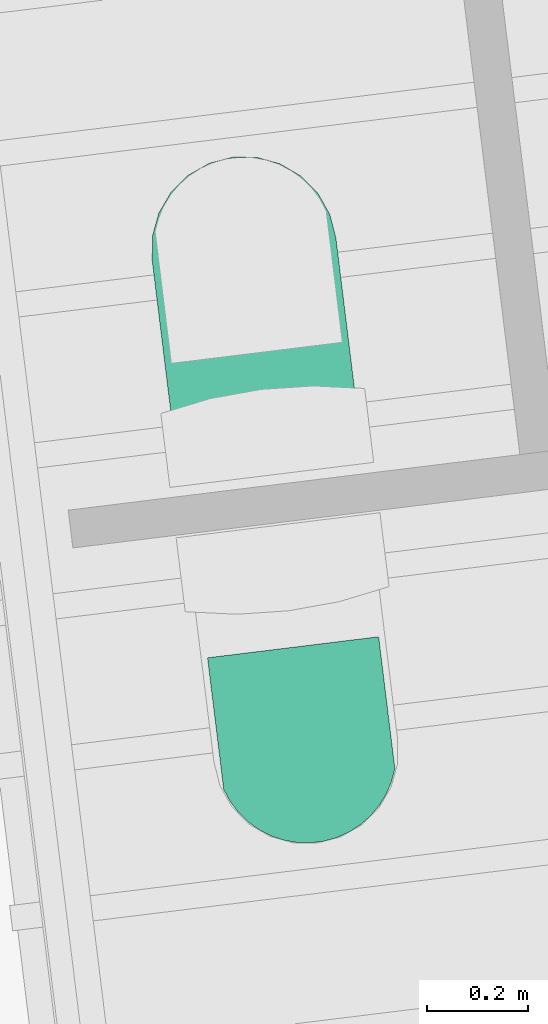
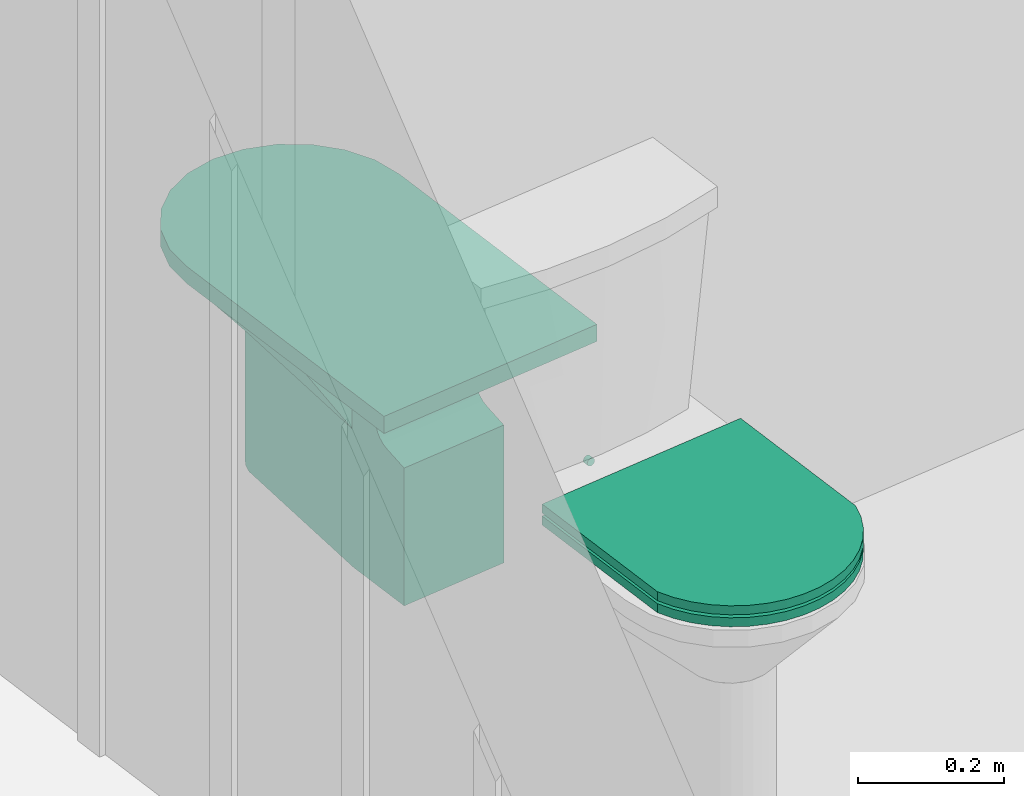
# One storey, part 51 of 75: 2 flow terminals.
"""IFC2X3 building model written with IfcOpenShell, lengths in metres."""

from ifc_helpers import new_model, entity, si_unit, converted_unit, derived_unit, direction, frame, frame_2d, origin, place, context, subcontext, project, spatial, polyline, circle_curve, parameter, trimmed, segment, composite_curve, outline, extrude, faceted_brep, source, transform, mapped, material, material_list, type_object, type_shapes, element, save


model = new_model("IFC2X3")

# Units and contexts
model_context = context("Model", 3, precision=1e-05, world=origin(), true_north=direction((6.123031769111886e-17, 1.0)))
body_context = subcontext(model_context, "Body", "Model", "MODEL_VIEW")
ifc_project = project(units=[si_unit("LENGTHUNIT", "METRE"), si_unit("AREAUNIT", "SQUARE_METRE"), si_unit("VOLUMEUNIT", "CUBIC_METRE"), converted_unit("PLANEANGLEUNIT", "DEGREE", entity("IfcRatioMeasure", 0.017453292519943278), si_unit("PLANEANGLEUNIT", "RADIAN"), dimensions=[0, 0, 0, 0, 0, 0, 0]), si_unit("MASSUNIT", "GRAM", prefix="KILO"), derived_unit("MASSDENSITYUNIT", [(si_unit("MASSUNIT", "GRAM", prefix="KILO"), 1), (si_unit("LENGTHUNIT", "METRE"), -3)]), derived_unit("IONCONCENTRATIONUNIT", [(si_unit("MASSUNIT", "GRAM", prefix="KILO"), 1), (si_unit("LENGTHUNIT", "METRE"), -3)]), derived_unit("MOMENTOFINERTIAUNIT", [(si_unit("LENGTHUNIT", "METRE"), 4)]), si_unit("TIMEUNIT", "SECOND"), si_unit("FREQUENCYUNIT", "HERTZ"), si_unit("THERMODYNAMICTEMPERATUREUNIT", "DEGREE_CELSIUS"), derived_unit("THERMALTRANSMITTANCEUNIT", [(si_unit("MASSUNIT", "GRAM", prefix="KILO"), 1), (si_unit("THERMODYNAMICTEMPERATUREUNIT", "KELVIN"), -1), (si_unit("TIMEUNIT", "SECOND"), -3)]), derived_unit("THERMALCONDUCTANCEUNIT", [(si_unit("MASSUNIT", "GRAM", prefix="KILO"), 1), (si_unit("THERMODYNAMICTEMPERATUREUNIT", "KELVIN"), -1), (si_unit("TIMEUNIT", "SECOND"), -3), (si_unit("LENGTHUNIT", "METRE"), 1)]), derived_unit("VOLUMETRICFLOWRATEUNIT", [(si_unit("LENGTHUNIT", "METRE"), 3), (si_unit("TIMEUNIT", "SECOND"), -1)]), derived_unit("MASSFLOWRATEUNIT", [(si_unit("MASSUNIT", "GRAM", prefix="KILO"), 1), (si_unit("TIMEUNIT", "SECOND"), -1)]), derived_unit("ROTATIONALFREQUENCYUNIT", [(si_unit("TIMEUNIT", "SECOND"), -1)]), si_unit("ELECTRICCURRENTUNIT", "AMPERE"), si_unit("ELECTRICVOLTAGEUNIT", "VOLT"), si_unit("POWERUNIT", "WATT"), si_unit("FORCEUNIT", "NEWTON", prefix="KILO"), si_unit("ILLUMINANCEUNIT", "LUX"), si_unit("LUMINOUSFLUXUNIT", "LUMEN"), si_unit("LUMINOUSINTENSITYUNIT", "CANDELA"), derived_unit("USERDEFINED", [(si_unit("MASSUNIT", "GRAM", prefix="KILO"), -1), (si_unit("LENGTHUNIT", "METRE"), -2), (si_unit("TIMEUNIT", "SECOND"), 3), (si_unit("LUMINOUSFLUXUNIT", "LUMEN"), 1)]), derived_unit("USERDEFINED", [(si_unit("MASSUNIT", "GRAM", prefix="KILO"), 1), (si_unit("TIMEUNIT", "SECOND"), -3), (si_unit("LENGTHUNIT", "METRE"), 3), (si_unit("ELECTRICCURRENTUNIT", "AMPERE"), -2)]), derived_unit("SOUNDPOWERUNIT", [(si_unit("MASSUNIT", "GRAM", prefix="KILO"), 1), (si_unit("TIMEUNIT", "SECOND"), -3), (si_unit("LENGTHUNIT", "METRE"), 2)]), derived_unit("SOUNDPRESSUREUNIT", [(si_unit("MASSUNIT", "GRAM", prefix="KILO"), 1), (si_unit("LENGTHUNIT", "METRE"), -1), (si_unit("TIMEUNIT", "SECOND"), -2)]), derived_unit("LINEARVELOCITYUNIT", [(si_unit("LENGTHUNIT", "METRE"), 1), (si_unit("TIMEUNIT", "SECOND"), -1)]), si_unit("PRESSUREUNIT", "PASCAL"), derived_unit("USERDEFINED", [(si_unit("MASSUNIT", "GRAM", prefix="KILO"), 1), (si_unit("LENGTHUNIT", "METRE"), -2), (si_unit("TIMEUNIT", "SECOND"), -2)]), derived_unit("LINEARFORCEUNIT", [(si_unit("MASSUNIT", "GRAM", prefix="KILO"), 1), (si_unit("TIMEUNIT", "SECOND"), -2)]), derived_unit("PLANARFORCEUNIT", [(si_unit("MASSUNIT", "GRAM", prefix="KILO"), 1), (si_unit("LENGTHUNIT", "METRE"), -1), (si_unit("TIMEUNIT", "SECOND"), -2)]), derived_unit("SPECIFICHEATCAPACITYUNIT", [(si_unit("THERMODYNAMICTEMPERATUREUNIT", "KELVIN"), -1), (si_unit("LENGTHUNIT", "METRE"), 2), (si_unit("TIMEUNIT", "SECOND"), -2)]), derived_unit("HEATINGVALUEUNIT", [(si_unit("LENGTHUNIT", "METRE"), 2), (si_unit("TIMEUNIT", "SECOND"), -2)]), derived_unit("VAPORPERMEABILITYUNIT", [(si_unit("LENGTHUNIT", "METRE"), -1), (si_unit("TIMEUNIT", "SECOND"), 1)]), derived_unit("DYNAMICVISCOSITYUNIT", [(si_unit("MASSUNIT", "GRAM", prefix="KILO"), 1), (si_unit("TIMEUNIT", "SECOND"), -1), (si_unit("LENGTHUNIT", "METRE"), -1)]), derived_unit("THERMALEXPANSIONCOEFFICIENTUNIT", [(si_unit("THERMODYNAMICTEMPERATUREUNIT", "KELVIN"), -1)]), derived_unit("MODULUSOFELASTICITYUNIT", [(si_unit("MASSUNIT", "GRAM", prefix="KILO"), 1), (si_unit("LENGTHUNIT", "METRE"), -1), (si_unit("TIMEUNIT", "SECOND"), -2)]), derived_unit("ISOTHERMALMOISTURECAPACITYUNIT", [(si_unit("LENGTHUNIT", "METRE"), 3), (si_unit("MASSUNIT", "GRAM", prefix="KILO"), -1)]), derived_unit("MOISTUREDIFFUSIVITYUNIT", [(si_unit("TIMEUNIT", "SECOND"), -1), (si_unit("LENGTHUNIT", "METRE"), 2)])], contexts=[model_context])

# Site, building, storey
site_placement = place(None, origin())
site = spatial("IfcSite", under=ifc_project, at=site_placement, Name="Default", CompositionType="ELEMENT")
building_placement = place(site_placement, origin())
building = spatial("IfcBuilding", under=site, at=building_placement, Name="Projeto", CompositionType="ELEMENT")
storey_placement = place(building_placement, origin())
storey = spatial("IfcBuildingStorey", under=building, at=storey_placement, Name="Nível 1", CompositionType="ELEMENT", Elevation=0.0)

# Flow terminals
ifc_material_1 = material(Name="<Unnamed>")
ifc_material_2 = material(Name="Deca GE17 Branco Gelo Cerâmica")
ifc_material_list = material_list([ifc_material_1, ifc_material_2])
distribution_element_type_1 = type_object("IfcDistributionElementType", Name="Deca_Bacia Duna_P.707_Caixa Acoplada:Dual Flux 3 lpf / 6 lpf - Branco GE17", material=ifc_material_list)
shared_shape_1 = source(origin(), body_context, "Body", "Brep", [
    faceted_brep([(-0.013030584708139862, 0.005348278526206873, 0.25170370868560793), (-0.025089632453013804, 0.0053482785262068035, 0.2566987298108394), (-0.03544497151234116, 0.005348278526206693, 0.26464466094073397), (-0.04339090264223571, 0.00534827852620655, 0.27500000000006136), (-0.04838592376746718, 0.005348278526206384, 0.2870590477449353), (-0.05008963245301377, 0.005348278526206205, 0.30000000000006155), (-0.048385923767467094, 0.0053482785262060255, 0.31294095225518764), (-0.04339090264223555, 0.005348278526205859, 0.3250000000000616), (-0.03544497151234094, 0.005348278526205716, 0.3353553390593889), (-0.025089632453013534, 0.005348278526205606, 0.34330127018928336), (-0.013030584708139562, 0.005348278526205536, 0.3482962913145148), (-8.96324530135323e-05, 0.005348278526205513, 0.3500000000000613), (0.01285131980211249, 0.005348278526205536, 0.3482962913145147), (0.02491036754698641, 0.005348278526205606, 0.34330127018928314), (0.03526570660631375, 0.005348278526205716, 0.3353553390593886), (0.04321163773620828, 0.005348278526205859, 0.32500000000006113), (0.048206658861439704, 0.0053482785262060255, 0.31294095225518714), (0.049910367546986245, 0.005348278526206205, 0.30000000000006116), (0.048206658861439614, 0.005348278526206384, 0.2870590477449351), (0.04321163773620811, 0.00534827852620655, 0.2750000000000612), (0.03526570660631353, 0.005348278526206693, 0.26464466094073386), (0.024910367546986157, 0.0053482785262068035, 0.2566987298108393), (0.012851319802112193, 0.005348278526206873, 0.2517037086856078), (-8.963245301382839e-05, 0.005348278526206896, 0.2500000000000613), (-0.04339090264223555, 0.0, 0.32500000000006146), (-0.048385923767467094, 0.0, 0.31294095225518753), (-0.05008963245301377, 0.0, 0.3000000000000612), (-0.04838592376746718, 0.0, 0.2870590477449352), (-0.04339090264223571, 0.0, 0.27500000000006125), (-0.03544497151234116, 0.0, 0.2646446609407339), (-0.025089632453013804, 0.0, 0.25669872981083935), (-0.013030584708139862, 0.0, 0.2517037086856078), (-8.963245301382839e-05, 0.0, 0.25000000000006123), (0.012851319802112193, 0.0, 0.25170370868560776), (0.024910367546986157, 0.0, 0.25669872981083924), (0.03526570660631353, 0.0, 0.2646446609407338), (0.04321163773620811, 0.0, 0.27500000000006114), (0.048206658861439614, 0.0, 0.28705904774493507), (0.049910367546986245, 0.0, 0.30000000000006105), (0.048206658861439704, 0.0, 0.3129409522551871), (0.04321163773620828, 0.0, 0.3250000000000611), (0.03526570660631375, 0.0, 0.33535533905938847), (0.02491036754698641, 0.0, 0.343301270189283), (0.01285131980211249, 0.0, 0.3482962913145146), (-8.96324530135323e-05, 0.0, 0.35000000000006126), (-0.013030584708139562, 0.0, 0.3482962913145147), (-0.025089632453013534, 0.0, 0.3433012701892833), (-0.03544497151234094, 0.0, 0.33535533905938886)], [[[0, 1, 2, 3, 4, 5, 6, 7, 8, 9, 10, 11, 12, 13, 14, 15, 16, 17, 18, 19, 20, 21, 22, 23]], [[24, 25, 26, 27, 28, 29, 30, 31, 32, 33, 34, 35, 36, 37, 38, 39, 40, 41, 42, 43, 44, 45, 46, 47]], [[16, 39, 38, 17]], [[15, 40, 39, 16]], [[42, 41, 14, 13]], [[15, 14, 41, 40]], [[43, 42, 13, 12]], [[44, 43, 12, 11]], [[10, 45, 44, 11]], [[9, 46, 45, 10]], [[24, 47, 8, 7]], [[9, 8, 47, 46]], [[25, 24, 7, 6]], [[26, 25, 6, 5]], [[4, 27, 26, 5]], [[3, 28, 27, 4]], [[30, 29, 2, 1]], [[3, 2, 29, 28]], [[31, 30, 1, 0]], [[32, 31, 0, 23]], [[22, 33, 32, 23]], [[21, 34, 33, 22]], [[36, 35, 20, 19]], [[21, 20, 35, 34]], [[37, 36, 19, 18]], [[38, 37, 18, 17]]]),
    faceted_brep([(0.003594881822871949, 0.3715076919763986, 0.2169121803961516), (-0.18010254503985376, 0.37150769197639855, 0.21691218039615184), (-0.18010254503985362, 0.3715076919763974, 0.30223566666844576), (-0.18010254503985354, 0.37150769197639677, 0.34441218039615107), (-0.18010254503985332, 0.371507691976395, 0.47191218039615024), (-0.17398801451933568, 0.3715076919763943, 0.5183566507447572), (-0.15606111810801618, 0.3715076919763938, 0.5616360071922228), (-0.12754354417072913, 0.3715076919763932, 0.5988008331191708), (-0.09037871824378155, 0.3715076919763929, 0.6273184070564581), (-0.047099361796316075, 0.37150769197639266, 0.6452453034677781), (-0.0006548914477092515, 0.37150769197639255, 0.6513598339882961), (0.0457895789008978, 0.3715076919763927, 0.6452453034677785), (0.08906893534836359, 0.3715076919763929, 0.627318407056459), (0.12623376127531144, 0.37150769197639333, 0.598800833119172), (0.15475133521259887, 0.37150769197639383, 0.5616360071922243), (0.17267823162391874, 0.37150769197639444, 0.5183566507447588), (0.1787927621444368, 0.37150769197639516, 0.4719121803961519), (0.17879276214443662, 0.3715076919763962, 0.38535083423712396), (0.17879276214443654, 0.3715076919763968, 0.34441218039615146), (0.17879276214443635, 0.37150769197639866, 0.216912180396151), (0.003594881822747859, 0.2301144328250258, 0.21691218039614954), (0.08879276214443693, 0.23011443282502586, 0.2169121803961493), (0.08135757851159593, 0.23011443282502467, 0.3018967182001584), (0.07349704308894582, 0.23011443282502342, 0.39174304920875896), (0.06563650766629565, 0.2301144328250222, 0.4815893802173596), (0.060879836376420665, 0.23011443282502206, 0.4929443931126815), (0.05612316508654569, 0.23011443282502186, 0.5042994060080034), (0.04739476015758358, 0.23011443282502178, 0.5129814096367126), (0.03866635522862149, 0.23011443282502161, 0.5216634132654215), (0.02728614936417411, 0.2301144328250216, 0.5263594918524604), (0.015905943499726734, 0.23011443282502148, 0.5310555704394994), (0.0035948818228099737, 0.23011443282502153, 0.5310555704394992), (-0.008716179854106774, 0.23011443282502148, 0.5310555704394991), (-0.020096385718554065, 0.2301144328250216, 0.5263594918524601), (-0.03147659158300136, 0.2301144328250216, 0.521663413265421), (-0.0402049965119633, 0.23011443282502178, 0.5129814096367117), (-0.048933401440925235, 0.23011443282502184, 0.5042994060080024), (-0.053690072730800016, 0.23011443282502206, 0.49294439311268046), (-0.05844674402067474, 0.23011443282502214, 0.48158938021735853), (-0.06610674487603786, 0.2301144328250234, 0.3940351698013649), (-0.07385487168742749, 0.23011443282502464, 0.3054736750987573), (-0.08160299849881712, 0.23011443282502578, 0.21691218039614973), (0.12339332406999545, 0.29423178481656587, 0.3446660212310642), (0.14378467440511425, 0.31650871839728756, 0.21691218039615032), (0.1189286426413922, 0.2927387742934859, 0.41323129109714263), (0.13477738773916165, 0.31650872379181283, 0.4756764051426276), (0.1222146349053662, 0.30081106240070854, 0.4767507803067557), (-0.12004904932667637, 0.2944006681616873, 0.3475461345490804), (-0.13171801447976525, 0.31527324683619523, 0.4757609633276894), (-0.1214550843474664, 0.29186369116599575, 0.28010337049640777), (-0.11927464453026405, 0.30081106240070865, 0.47675078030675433), (-0.1409276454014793, 0.31527325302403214, 0.216912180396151), (-0.10880249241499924, 0.29823220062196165, 0.5148337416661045), (-0.0951565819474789, 0.29586402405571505, 0.5362892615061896), (0.09839395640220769, 0.29586402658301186, 0.536289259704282), (0.11189751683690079, 0.29823221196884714, 0.5148337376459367), (0.015909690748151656, 0.30276951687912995, 0.5926011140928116), (-0.010981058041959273, 0.29984585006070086, 0.5903491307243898), (-0.05869502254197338, 0.295864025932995, 0.5708816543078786), (-0.036335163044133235, 0.2977191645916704, 0.5829795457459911), (-0.08011624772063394, 0.29640373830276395, 0.554957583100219), (0.08332117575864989, 0.2964037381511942, 0.5549575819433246), (0.04001913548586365, 0.2978798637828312, 0.5829307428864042), (0.0619323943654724, 0.2958640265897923, 0.5708816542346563)], [[[0, 1, 2, 3, 4, 5, 6, 7, 8, 9, 10, 11, 12, 13, 14, 15, 16, 17, 18, 19]], [[20, 21, 22, 23, 24, 25, 26, 27, 28, 29, 30, 31, 32, 33, 34, 35, 36, 37, 38, 39, 40, 41]], [[42, 43, 18]], [[24, 23, 44]], [[22, 21, 43]], [[19, 18, 43]], [[23, 42, 44]], [[17, 45, 44]], [[22, 42, 23]], [[43, 42, 22]], [[18, 17, 42]], [[45, 17, 16]], [[17, 44, 42]], [[44, 45, 46, 24]], [[47, 48, 3]], [[41, 40, 49]], [[39, 38, 50, 48]], [[4, 3, 48]], [[40, 47, 49]], [[2, 51, 49]], [[39, 47, 40]], [[48, 47, 39]], [[3, 2, 47]], [[51, 2, 1]], [[2, 49, 47]], [[41, 49, 51]], [[0, 19, 43, 21, 20, 41, 51, 1]], [[37, 52, 50]], [[52, 36, 53]], [[35, 53, 36]], [[26, 54, 27]], [[25, 46, 55]], [[52, 53, 6]], [[31, 56, 57]], [[58, 59, 8]], [[7, 53, 60]], [[53, 35, 60]], [[53, 7, 6]], [[7, 60, 58]], [[37, 36, 52]], [[52, 6, 5]], [[58, 34, 33]], [[35, 34, 60]], [[9, 59, 57]], [[5, 50, 52]], [[10, 57, 56]], [[9, 57, 10]], [[61, 54, 13]], [[32, 59, 33]], [[58, 60, 34]], [[57, 32, 31]], [[8, 59, 9]], [[55, 15, 14]], [[30, 29, 62]], [[63, 61, 13]], [[55, 26, 25]], [[13, 54, 14]], [[61, 27, 54]], [[14, 54, 55]], [[15, 46, 45, 16]], [[63, 13, 12]], [[55, 46, 15]], [[24, 46, 25]], [[28, 27, 61]], [[54, 26, 55]], [[56, 31, 30]], [[59, 32, 57]], [[11, 56, 62]], [[11, 10, 56]], [[63, 29, 28]], [[29, 63, 62]], [[59, 58, 33]], [[58, 8, 7]], [[61, 63, 28]], [[62, 12, 11]], [[62, 63, 12]], [[30, 62, 56]], [[5, 4, 48, 50]], [[38, 37, 50]]]),
    faceted_brep([(0.003125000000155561, 0.0, 0.2169121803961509), (0.08840864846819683, 0.0, 0.21691218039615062), (0.06516662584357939, 0.0, 0.48256971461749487), (0.05988022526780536, 0.0, 0.49717859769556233), (0.0512118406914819, 0.0, 0.510071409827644), (0.03967801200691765, 0.0, 0.5204798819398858), (0.025966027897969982, 0.0, 0.5277837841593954), (0.010892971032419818, 0.0, 0.5315478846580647), (-0.0046429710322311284, 0.0, 0.5315478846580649), (-0.019716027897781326, 0.0, 0.5277837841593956), (-0.03342801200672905, 0.0, 0.5204798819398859), (-0.04496184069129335, 0.0, 0.5100714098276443), (-0.053630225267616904, 0.0, 0.4971785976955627), (-0.05891662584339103, 0.0, 0.48256971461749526), (-0.08215864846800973, 0.0, 0.21691218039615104), (-0.0046429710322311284, 0.23011443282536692, 0.5315478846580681), (0.010892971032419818, 0.23011443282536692, 0.531547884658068), (0.025966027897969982, 0.23011443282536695, 0.5277837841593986), (0.03967801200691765, 0.23011443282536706, 0.5204798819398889), (0.0512118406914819, 0.23011443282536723, 0.5100714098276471), (0.05988022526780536, 0.2301144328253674, 0.49717859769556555), (0.06516662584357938, 0.2301144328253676, 0.48256971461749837), (0.08840864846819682, 0.23011443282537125, 0.21691218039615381), (0.003125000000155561, 0.23011443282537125, 0.2169121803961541), (-0.08215864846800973, 0.23011443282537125, 0.21691218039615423), (-0.05891662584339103, 0.2301144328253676, 0.48256971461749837), (-0.053630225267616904, 0.2301144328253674, 0.4971785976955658), (-0.04496184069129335, 0.23011443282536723, 0.5100714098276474), (-0.03342801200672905, 0.23011443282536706, 0.520479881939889), (-0.019716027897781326, 0.23011443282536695, 0.5277837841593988)], [[[0, 1, 2, 3, 4, 5, 6, 7, 8, 9, 10, 11, 12, 13, 14]], [[15, 16, 17, 18, 19, 20, 21, 22, 23, 24, 25, 26, 27, 28, 29]], [[2, 1, 22, 21]], [[14, 13, 25, 24]], [[0, 14, 24, 23, 22, 1]], [[3, 20, 19, 4]], [[21, 20, 3, 2]], [[5, 18, 17, 6]], [[19, 18, 5, 4]], [[6, 17, 16, 7]], [[16, 15, 8, 7]], [[8, 15, 29, 9]], [[28, 10, 9, 29]], [[11, 27, 26, 12]], [[28, 27, 11, 10]], [[12, 26, 25, 13]]]),
    faceted_brep([(-0.1455098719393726, 0.20449012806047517, -0.00923038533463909), (-0.14450073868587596, 0.20317499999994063, -0.00923038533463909), (-0.1438663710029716, 0.20164350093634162, -0.00923038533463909), (-0.14364999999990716, 0.1999999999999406, -0.00923038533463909), (-0.1438663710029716, 0.19835649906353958, -0.00923038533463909), (-0.14450073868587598, 0.1968249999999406, -0.00923038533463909), (-0.1455098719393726, 0.19550987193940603, -0.00923038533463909), (-0.1468249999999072, 0.19450073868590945, -0.00923038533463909), (-0.14835649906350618, 0.19386637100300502, -0.00923038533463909), (-0.14999999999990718, 0.19364999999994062, -0.00923038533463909), (-0.15164350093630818, 0.19386637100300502, -0.00923038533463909), (-0.1531749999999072, 0.19450073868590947, -0.00923038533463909), (-0.15449012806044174, 0.19550987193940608, -0.00923038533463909), (-0.15549926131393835, 0.19682499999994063, -0.00923038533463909), (-0.15613362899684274, 0.19835649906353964, -0.00923038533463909), (-0.15634999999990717, 0.19999999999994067, -0.00923038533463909), (-0.15613362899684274, 0.20164350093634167, -0.00923038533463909), (-0.15549926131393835, 0.20317499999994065, -0.00923038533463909), (-0.1544901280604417, 0.20449012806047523, -0.00923038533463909), (-0.15317499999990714, 0.2054992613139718, -0.00923038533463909), (-0.15164350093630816, 0.2061336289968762, -0.00923038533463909), (-0.14999999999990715, 0.20634999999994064, -0.00923038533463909), (-0.14835649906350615, 0.2061336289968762, -0.00923038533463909), (-0.14682499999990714, 0.2054992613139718, -0.00923038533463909), (-0.1468249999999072, 0.19450073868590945, 0.0), (-0.1455098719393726, 0.19550987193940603, 0.0), (-0.14450073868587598, 0.1968249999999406, 0.0), (-0.1438663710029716, 0.19835649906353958, 0.0), (-0.14364999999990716, 0.19999999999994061, 0.0), (-0.1438663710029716, 0.20164350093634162, 0.0), (-0.14450073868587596, 0.20317499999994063, 0.0), (-0.1455098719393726, 0.20449012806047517, 0.0), (-0.14682499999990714, 0.2054992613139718, 0.0), (-0.14835649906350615, 0.2061336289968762, 0.0), (-0.14999999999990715, 0.20634999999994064, 0.0), (-0.15164350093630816, 0.2061336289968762, 0.0), (-0.15317499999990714, 0.2054992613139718, 0.0), (-0.1544901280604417, 0.20449012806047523, 0.0), (-0.15549926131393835, 0.20317499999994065, 0.0), (-0.15613362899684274, 0.20164350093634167, 0.0), (-0.15634999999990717, 0.19999999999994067, 0.0), (-0.15613362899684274, 0.19835649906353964, 0.0), (-0.15549926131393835, 0.19682499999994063, 0.0), (-0.15449012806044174, 0.19550987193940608, 0.0), (-0.1531749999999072, 0.19450073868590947, 0.0), (-0.15164350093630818, 0.19386637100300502, 0.0), (-0.14999999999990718, 0.19364999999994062, 0.0), (-0.14835649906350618, 0.19386637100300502, 0.0)], [[[0, 1, 2, 3, 4, 5, 6, 7, 8, 9, 10, 11, 12, 13, 14, 15, 16, 17, 18, 19, 20, 21, 22, 23]], [[24, 25, 26, 27, 28, 29, 30, 31, 32, 33, 34, 35, 36, 37, 38, 39, 40, 41, 42, 43, 44, 45, 46, 47]], [[14, 41, 40, 15]], [[13, 42, 41, 14]], [[44, 43, 12, 11]], [[13, 12, 43, 42]], [[45, 44, 11, 10]], [[46, 45, 10, 9]], [[8, 47, 46, 9]], [[7, 24, 47, 8]], [[26, 25, 6, 5]], [[7, 6, 25, 24]], [[27, 26, 5, 4]], [[28, 27, 4, 3]], [[2, 29, 28, 3]], [[1, 30, 29, 2]], [[32, 31, 0, 23]], [[1, 0, 31, 30]], [[33, 32, 23, 22]], [[34, 33, 22, 21]], [[20, 35, 34, 21]], [[19, 36, 35, 20]], [[38, 37, 18, 17]], [[19, 18, 37, 36]], [[39, 38, 17, 16]], [[40, 39, 16, 15]]]),
    faceted_brep([(0.08859628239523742, 0.0, 0.09879143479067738), (0.08859628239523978, 0.23011443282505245, 0.09879143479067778), (0.0885962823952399, 0.2403078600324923, 0.13798298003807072), (0.08859628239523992, 0.2437334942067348, 0.14643480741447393), (0.08859628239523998, 0.24922587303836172, 0.15371506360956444), (0.08859628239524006, 0.25641226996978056, 0.15932969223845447), (0.08859628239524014, 0.2648049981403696, 0.162897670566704), (0.08859628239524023, 0.27383450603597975, 0.16417686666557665), (0.08859628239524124, 0.3715076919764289, 0.16417686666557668), (0.08859628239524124, 0.37150769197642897, 0.2169121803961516), (0.08859628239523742, 0.0, 0.21691218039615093), (-0.08234628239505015, 0.37150769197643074, 0.2169121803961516), (-0.08234628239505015, 0.3715076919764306, 0.16417686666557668), (-0.08234628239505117, 0.27383450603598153, 0.16417686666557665), (-0.08234628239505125, 0.26480499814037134, 0.162897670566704), (-0.08234628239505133, 0.25641226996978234, 0.15932969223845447), (-0.08234628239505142, 0.24922587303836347, 0.15371506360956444), (-0.08234628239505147, 0.24373349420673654, 0.14643480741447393), (-0.0823462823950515, 0.24030786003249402, 0.1379829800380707), (-0.08234628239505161, 0.2301144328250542, 0.09879143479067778), (-0.08234628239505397, 0.0, 0.09879143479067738), (-0.08234628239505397, 0.0, 0.21691218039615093)], [[[0, 1, 2, 3, 4, 5, 6, 7, 8, 9, 10]], [[11, 12, 13, 14, 15, 16, 17, 18, 19, 20, 21]], [[2, 1, 19, 18]], [[3, 2, 18, 17]], [[4, 3, 17, 16]], [[16, 15, 5, 4]], [[6, 5, 15, 14]], [[7, 6, 14, 13]], [[8, 7, 13, 12]], [[9, 8, 12, 11]], [[1, 0, 20, 19]], [[10, 9, 11, 21]], [[0, 10, 21, 20]]]),
    faceted_brep([(0.18249999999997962, 0.39999999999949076, 0.020115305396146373), (-0.18249999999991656, 0.39999999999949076, 0.020115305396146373), (-0.18249999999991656, 0.39999999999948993, 0.46886530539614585), (-0.1762814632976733, 0.3999999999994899, 0.5160997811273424), (-0.15804963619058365, 0.3999999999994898, 0.5601153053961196), (-0.12904698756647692, 0.3999999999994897, 0.5979122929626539), (-0.09124999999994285, 0.39999999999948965, 0.6269149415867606), (-0.047234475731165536, 0.39999999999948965, 0.6451467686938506), (0.0, 0.39999999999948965, 0.6513653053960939), (0.04723447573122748, 0.39999999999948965, 0.6451467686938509), (0.09125000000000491, 0.39999999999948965, 0.6269149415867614), (0.12904698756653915, 0.3999999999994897, 0.5979122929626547), (0.15804963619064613, 0.3999999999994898, 0.5601153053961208), (0.17628146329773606, 0.3999999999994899, 0.5160997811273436), (0.18249999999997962, 0.39999999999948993, 0.46886530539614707), (0.0, 0.371507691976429, 0.6513653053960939), (-0.047234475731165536, 0.371507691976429, 0.6451467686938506), (-0.09124999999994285, 0.371507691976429, 0.6269149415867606), (-0.12904698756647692, 0.37150769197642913, 0.5979122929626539), (-0.15804963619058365, 0.3715076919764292, 0.5601153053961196), (-0.1762814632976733, 0.37150769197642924, 0.5160997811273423), (-0.18249999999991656, 0.3715076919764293, 0.46886530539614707), (-0.18249999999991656, 0.37150769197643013, 0.020115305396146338), (0.18249999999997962, 0.37150769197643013, 0.020115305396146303), (0.18249999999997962, 0.3715076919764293, 0.46886530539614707), (0.17628146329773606, 0.37150769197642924, 0.5160997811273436), (0.15804963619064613, 0.3715076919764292, 0.5601153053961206), (0.12904698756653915, 0.37150769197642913, 0.5979122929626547), (0.09125000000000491, 0.371507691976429, 0.6269149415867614), (0.04723447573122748, 0.371507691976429, 0.6451467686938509)], [[[0, 1, 2, 3, 4, 5, 6, 7, 8, 9, 10, 11, 12, 13, 14]], [[15, 16, 17, 18, 19, 20, 21, 22, 23, 24, 25, 26, 27, 28, 29]], [[2, 1, 22, 21]], [[0, 14, 24, 23]], [[1, 0, 23, 22]], [[20, 3, 2, 21]], [[19, 4, 3, 20]], [[6, 5, 18, 17]], [[19, 18, 5, 4]], [[7, 6, 17, 16]], [[8, 7, 16, 15]], [[29, 9, 8, 15]], [[28, 10, 9, 29]], [[12, 11, 27, 26]], [[28, 27, 11, 10]], [[13, 12, 26, 25]], [[14, 13, 25, 24]]]),
])
type_shapes(distribution_element_type_1, [shared_shape_1])
flow_terminal_1_placement = place(storey_placement, frame((-17.87906793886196, 28.805951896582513, -2.574999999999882), z_axis=(-0.12215242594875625, 0.9925113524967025, 0.0), x_axis=(-0.9925113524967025, -0.12215242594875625, 0.0)))
element("IfcFlowTerminal", 1, at=flow_terminal_1_placement, inside=storey, type_object=distribution_element_type_1, material=ifc_material_list, Name="Deca_Bacia Duna_P.707_Caixa Acoplada:Dual Flux 3 lpf / 6 lpf - Branco GE17", ObjectType="Deca_Bacia Duna_P.707_Caixa Acoplada:Dual Flux 3 lpf / 6 lpf - Branco GE17", context=body_context, shape_type="MappedRepresentation", body=[
    mapped(shared_shape_1, transform((0.0, 0.0, 0.0), scale=1.0)),
])
ifc_material_3 = material(Name="Deca GE17 Branco Gelo Poliéster")
distribution_element_type_2 = type_object("IfcDistributionElementType", Name="Deca_Shared_Assento_P.707:Assento termofixo slow close e easy clean - Branco GE17", material=ifc_material_3)
shared_shape_2 = source(origin(), body_context, "Body", "SweptSolid", [
    extrude(outline(composite_curve([segment(polyline([(-0.13087853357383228, -0.16999999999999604), (0.13087853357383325, -0.16999999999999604)]), True, "CONTINUOUS"), segment(polyline([(0.13087853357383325, -0.16999999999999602), (0.13087853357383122, 0.1699999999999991)]), True, "CONTINUOUS"), segment(polyline([(0.13087853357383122, 0.1699999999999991), (-0.1308785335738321, 0.16999999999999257)]), True, "CONTINUOUS"), segment(trimmed(circle_curve(frame_2d((-0.07883300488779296, 0.0), x_axis=(0.0, -1.0)), 0.1777884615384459), [parameter(197.02197774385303)], [parameter(342.97802225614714)], True, "PARAMETER"), True, "CONTINUOUS")], self_intersect=False)), frame((0.0, -0.03500000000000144, 0.13087853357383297), z_axis=(0.0, 1.0, 0.0), x_axis=(0.0, 0.0, -1.0)), (0.0, 0.0, 1.0), 0.014999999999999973),
    extrude(outline(composite_curve([segment(trimmed(circle_curve(frame_2d((0.0, -0.07883300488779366), x_axis=(1.0, 0.0)), 0.1777884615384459), [parameter(197.02197774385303)], [parameter(342.9780222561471)], True, "PARAMETER"), True, "CONTINUOUS"), segment(polyline([(0.1699999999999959, -0.1308785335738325), (0.1699999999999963, 0.13087853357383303)]), True, "CONTINUOUS"), segment(polyline([(0.16999999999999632, 0.13087853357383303), (-0.1699999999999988, 0.13087853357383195)]), True, "CONTINUOUS"), segment(polyline([(-0.16999999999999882, 0.13087853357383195), (-0.16999999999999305, -0.13087853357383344)]), True, "CONTINUOUS")], self_intersect=False)), frame((0.0, -0.015000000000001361, 0.130878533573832), z_axis=(0.0, 1.0, 0.0), x_axis=(1.0, 0.0, 0.0)), (0.0, 0.0, 1.0), 0.014999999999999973),
])
type_shapes(distribution_element_type_2, [shared_shape_2])
flow_terminal_2_placement = place(storey_placement, frame((-17.83958469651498, 28.485876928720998, -2.1700000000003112), z_axis=(0.12215242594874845, -0.9925113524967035, 0.0), x_axis=(-0.9925113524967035, -0.12215242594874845, 0.0)))
element("IfcFlowTerminal", 2, at=flow_terminal_2_placement, inside=storey, type_object=distribution_element_type_2, material=ifc_material_3, Name="Deca_Shared_Assento_P.707:Assento termofixo slow close e easy clean - Branco GE17", ObjectType="Deca_Shared_Assento_P.707:Assento termofixo slow close e easy clean - Branco GE17", context=body_context, shape_type="MappedRepresentation", body=[
    mapped(shared_shape_2, transform((0.0, 0.0, 0.0), scale=1.0)),
])

save(model, "model.ifc")
